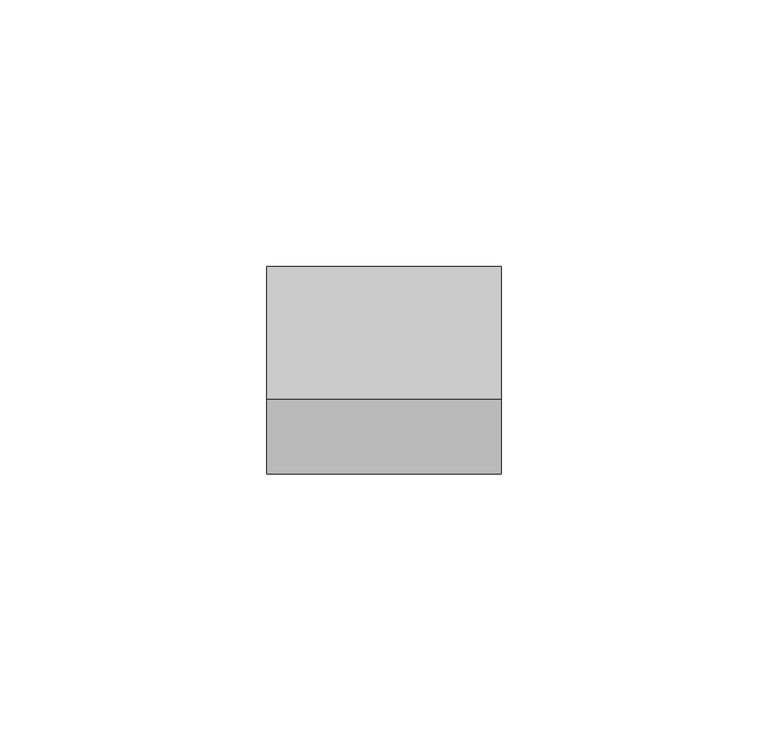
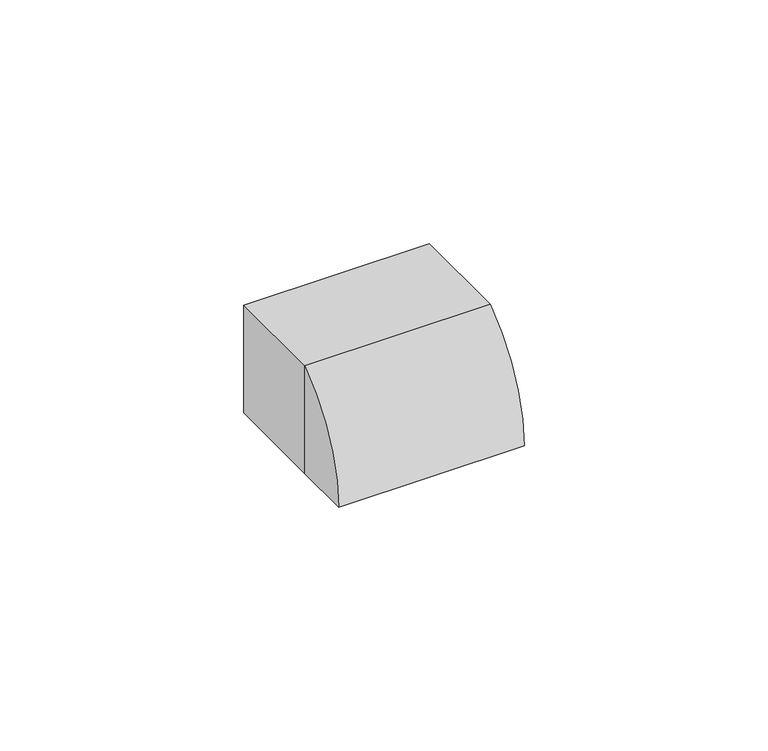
"""IFC4 building model written with IfcOpenShell, lengths in millimetres: proxy geometry, Заглушка_кабельной_трассы КМЗ : Заглушка кабельной трассы КМЗ 40х25."""

from ifc_helpers import new_model, si_unit, frame, origin, place, context, project, spatial, polyline, circle_curve, outline, extrude, source, transform, mapped, element, save
from ifc_brep_helpers import plane_surface, cylinder_surface, revolved_surface, advanced_brep


def generic_models_bda7f662(model_context):
    return source(origin(), model_context, "Body", "SolidModel", [
        advanced_brep(
        [(-8.0, -25.0, 0.0), (-8.0, -25.0, 27.0), (-8.0, -38.9475358, 0.0), (-52.0, -25.0, 0.0), (-52.0, -38.9475358, 0.0), (-52.0, -25.0, 27.0), (-10.0, -25.0, 0.0), (-10.0, -25.0, 25.0), (-50.0, -25.0, 25.0), (-50.0, -25.0, 0.0), (-50.0, -37.5134381, 0.0), (-10.0, -37.5134381, 0.0)],
        [
            (0, 1),
            (1, 2, circle_curve(frame((-8.0, -5.1340485, -0.3647388), z_axis=(1.0, 0.0, 0.0), x_axis=(0.0, 1.0, 0.0)), 33.8154545)),
            (2, 0),
            (3, 4),
            (4, 5, circle_curve(frame((-52.0, -5.1340485, -0.3647388), z_axis=(-1.0, 0.0, 0.0), x_axis=(0.0, 1.0, 0.0)), 33.8154545)),
            (5, 3),
            (0, 6),
            (6, 7),
            (7, 8),
            (8, 9),
            (9, 3),
            (5, 1),
            (4, 2),
            (9, 10),
            (10, 11),
            (11, 6),
            (11, 7, circle_curve(frame((-10.0, -4.8124322, -0.7363579), z_axis=(-1.0, 0.0, 0.0), x_axis=(0.0, 1.0, 0.0)), 32.7092954)),
            (8, 10, circle_curve(frame((-50.0, -4.8124322, -0.7363579), z_axis=(1.0, 0.0, 0.0), x_axis=(0.0, 1.0, 0.0)), 32.7092954)),
        ],
        [
            plane_surface(frame((-8.0, -25.0, 27.0), z_axis=(1.0, 0.0, 0.0), x_axis=(0.0, 0.0, 1.0))),
            plane_surface(frame((-52.0, -25.0, 27.0), z_axis=(-1.0, 0.0, 0.0), x_axis=(0.0, 0.0, -1.0))),
            plane_surface(frame((-8.0, -25.0, 0.0), z_axis=(0.0, 1.0, 0.0), x_axis=(-1.0, 0.0, 0.0))),
            cylinder_surface(frame((-52.0, -5.1340485, -0.3647388), z_axis=(1.0, 0.0, 0.0), x_axis=(0.0, 1.0, 0.0)), 33.8154545),
            plane_surface(frame((-8.0, -38.9475358, 0.0), z_axis=(0.0, 0.0, -1.0), x_axis=(-1.0, 0.0, 0.0))),
            plane_surface(frame((-10.0, -25.0, 25.0), z_axis=(-1.0, 0.0, 0.0), x_axis=(0.0, 0.0, 1.0))),
            plane_surface(frame((-50.0, -25.0, 25.0), z_axis=(1.0, 0.0, 0.0), x_axis=(0.0, 0.0, -1.0))),
            revolved_surface(polyline([(-10.0, 27.896863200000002, -0.7363579), (-50.0, 27.896863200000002, -0.7363579)]), (-50.0, -4.8124322, -0.7363579), (1.0, 0.0, 0.0)),
        ],
        [
            (0, [[1, 2, 3]]),
            (1, [[4, 5, 6]]),
            (2, [[-1, 7, 8, 9, 10, 11, -6, 12]]),
            (3, [[-2, -12, -5, 13]]),
            (4, [[-3, -13, -4, -11, 14, 15, 16, -7]]),
            (5, [[17, -8, -16]]),
            (6, [[18, -14, -10]]),
            (7, [[-17, -15, -18, -9]]),
        ],
    ),
        extrude(outline(polyline([(27.0, -8.0), (27.0, -52.0), (0.0, -52.0), (0.0, -50.0), (25.0, -50.0), (25.0, -10.0), (0.0, -10.0), (0.0, -8.0), (27.0, -8.0)])), frame((0.0, -25.0, 0.0), z_axis=(0.0, 1.0, 0.0), x_axis=(0.0, 0.0, 1.0)), (0.0, 0.0, 1.0), 25.0),
    ])


if __name__ == "__main__":
    model = new_model("IFC4")
    model_context = context("Model", 3, world=origin())
    ifc_project = project(units=[si_unit("LENGTHUNIT", "METRE", prefix="MILLI")], contexts=[model_context])
    site = spatial("IfcSite", under=ifc_project)
    building = spatial("IfcBuilding", under=site)
    placement = place(None, origin())
    generic_models_shape = generic_models_bda7f662(model_context)
    element("IfcBuildingElementProxy", 1, Name="Заглушка_кабельной_трассы КМЗ : Заглушка кабельной трассы КМЗ 40х25", ObjectType="Заглушка_кабельной_трассы КМЗ : Заглушка кабельной трассы КМЗ 40х25", at=placement, inside=building, context=model_context, shape_type="MappedRepresentation", body=[
        mapped(generic_models_shape, transform((0.0, 0.0, 0.0), x_axis=(1.0, 0.0, 0.0), y_axis=(0.0, 1.0, 0.0), z_axis=(0.0, 0.0, 1.0))),
    ])
    save(model, "model.ifc")
